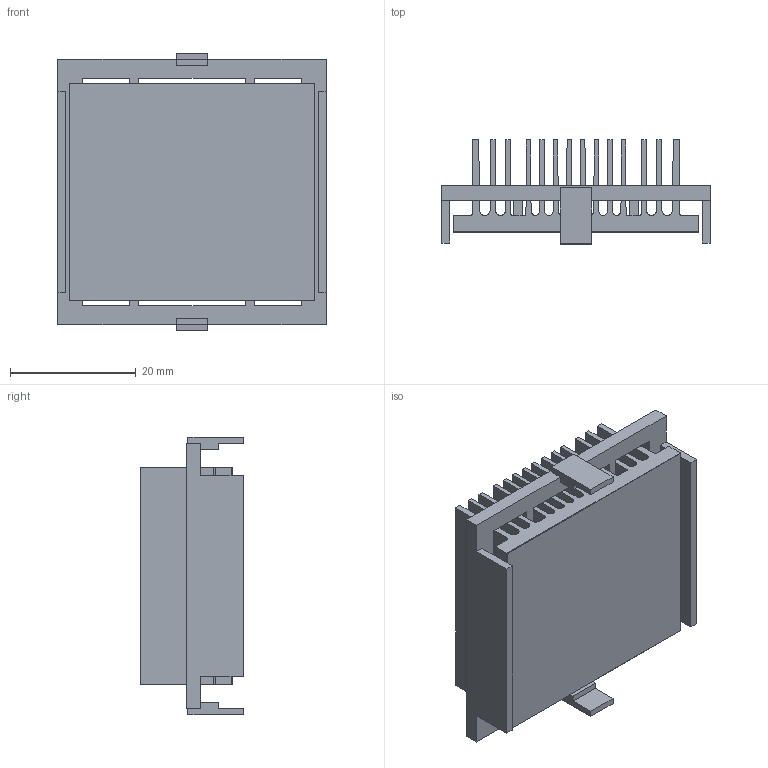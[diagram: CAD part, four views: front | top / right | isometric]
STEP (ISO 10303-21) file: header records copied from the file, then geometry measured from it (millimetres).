
FILE_DESCRIPTION (( 'STEP AP214' ), '1' );
FILE_NAME ('INH40001-15-2.6BU.STEP', '2023-02-20T19:43:11', ( '' ), ( '' ), 'SwSTEP 2.0', 'SolidWorks 2020', '' );
FILE_SCHEMA (( 'AUTOMOTIVE_DESIGN' ));
Length unit declared in the file: millimetre
Products named in the file (1): INH40001-15-2.6BU
Bounding box: 42.7 x 16.5 x 44.2 mm (x, y, z)
Volume: 10432.9 mm3; surface area: 20514.7 mm2
Topology: 3 solids, 3 shells, 154 faces, 444 edges, 296 vertices
Faces by surface type: plane 126, cylinder 28
Entity records: 6754 total; most frequent: CARTESIAN_POINT 895, ORIENTED_EDGE 888, DIRECTION 810, EDGE_CURVE 444, VECTOR 388, LINE 388, VERTEX_POINT 296, AXIS2_PLACEMENT_3D 211
